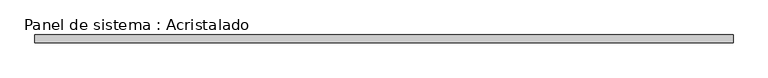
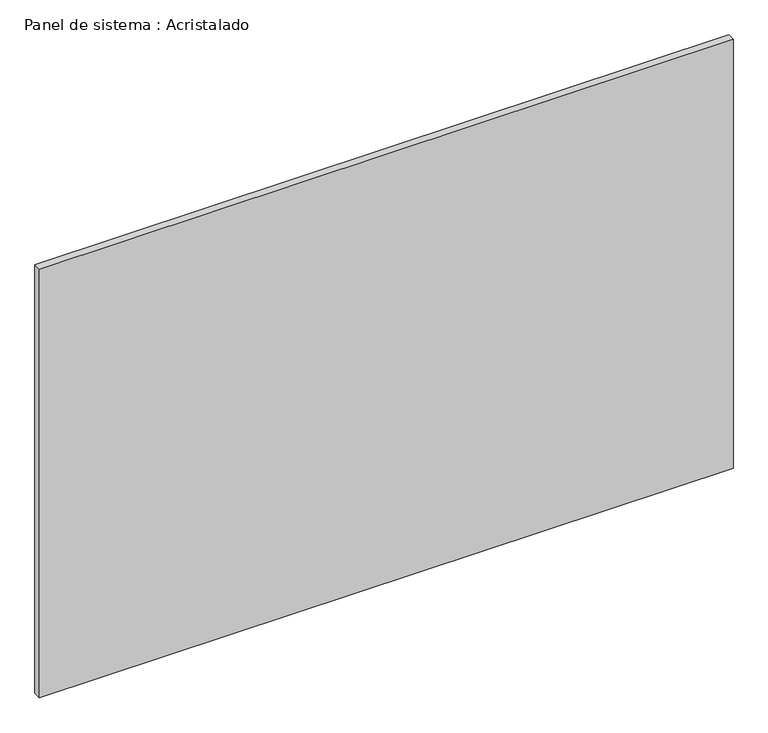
"""IFC4 building model written with IfcOpenShell, lengths in millimetres: plate geometry, Panel de sistema : Acristalado."""

from ifc_helpers import new_model, si_unit, origin, origin_with_axes, place, context, project, spatial, polyline, outline, extrude, source, transform, mapped, element, save


def panel_de_sistema_acristalado_58fb62f0(model_context):
    return source(origin(), model_context, "Body", "SweptSolid", [
        extrude(outline(polyline([(899.2660359, -10.0), (-899.2660359, -10.0), (-899.2660359, 10.0), (899.2660359, 10.0), (899.2660359, -10.0)])), origin_with_axes(), (0.0, 0.0, 1.0), 1175.0),
    ])


if __name__ == "__main__":
    model = new_model("IFC4")
    model_context = context("Model", 3, world=origin())
    ifc_project = project(units=[si_unit("LENGTHUNIT", "METRE", prefix="MILLI")], contexts=[model_context])
    site = spatial("IfcSite", under=ifc_project)
    building = spatial("IfcBuilding", under=site)
    placement = place(None, origin())
    panel_de_sistema_acristalado_shape = panel_de_sistema_acristalado_58fb62f0(model_context)
    element("IfcPlate", 1, ObjectType="Panel de sistema : Acristalado", at=placement, inside=building, context=model_context, shape_type="MappedRepresentation", body=[
        mapped(panel_de_sistema_acristalado_shape, transform((0.0, 0.0, 0.0), x_axis=(1.0, 0.0, 0.0), y_axis=(0.0, 1.0, 0.0), z_axis=(0.0, 0.0, 1.0))),
    ])
    save(model, "model.ifc")
